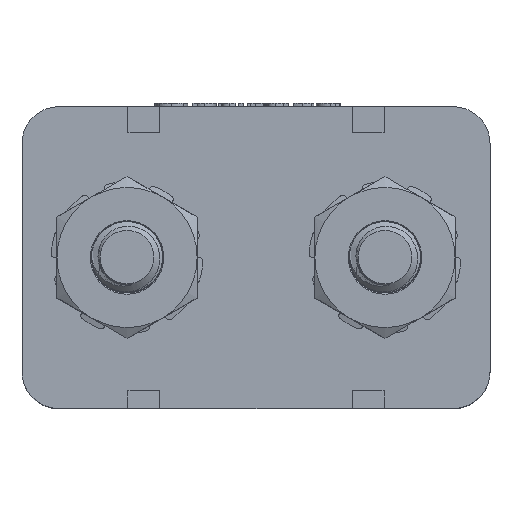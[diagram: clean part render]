
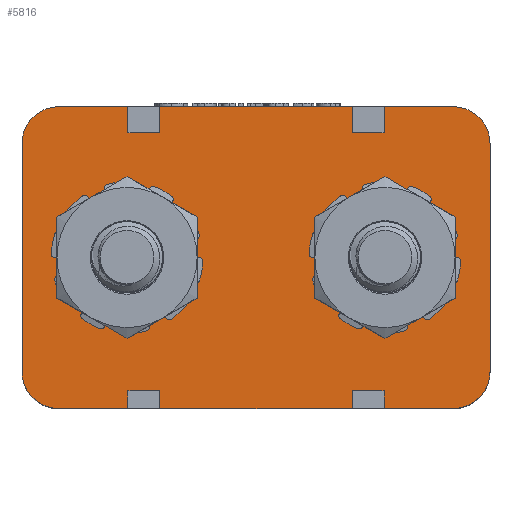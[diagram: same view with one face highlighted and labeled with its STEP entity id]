
A CAD part, top view. The second image highlights one B-rep face of the part: STEP entity #5816.
In plain terms, the highlighted planar face has unit normal (0, 0, 1).
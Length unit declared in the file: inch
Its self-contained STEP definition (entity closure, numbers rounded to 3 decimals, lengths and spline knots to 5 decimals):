
#631=PLANE('',#6151);
#825=FACE_OUTER_BOUND('',#1153,.T.);
#1153=EDGE_LOOP('',(#4529,#4530,#4531,#4532,#4533,#4534,#4535,#4536,#4537,
#4538,#4539,#4540,#4541,#4542,#4543,#4544,#4545,#4546,#4547,#4548,#4549,
#4550,#4551,#4552));
#1563=LINE('',#9264,#1963);
#1565=LINE('',#9270,#1965);
#1568=LINE('',#9275,#1968);
#1573=LINE('',#9285,#1973);
#1575=LINE('',#9291,#1975);
#1578=LINE('',#9296,#1978);
#1580=LINE('',#9301,#1980);
#1584=LINE('',#9309,#1984);
#1587=LINE('',#9315,#1987);
#1592=LINE('',#9324,#1992);
#1594=LINE('',#9327,#1994);
#1595=LINE('',#9330,#1995);
#1598=LINE('',#9336,#1998);
#1601=LINE('',#9344,#2001);
#1602=LINE('',#9348,#2002);
#1603=LINE('',#9350,#2003);
#1604=LINE('',#9352,#2004);
#1605=LINE('',#9353,#2005);
#1606=LINE('',#9355,#2006);
#1607=LINE('',#9359,#2007);
#1963=VECTOR('',#6876,0.3937);
#1965=VECTOR('',#6880,0.3937);
#1968=VECTOR('',#6885,0.3937);
#1973=VECTOR('',#6892,0.3937);
#1975=VECTOR('',#6896,0.3937);
#1978=VECTOR('',#6901,0.3937);
#1980=VECTOR('',#6905,0.3937);
#1984=VECTOR('',#6911,0.3937);
#1987=VECTOR('',#6916,0.3937);
#1992=VECTOR('',#6923,0.3937);
#1994=VECTOR('',#6927,0.3937);
#1995=VECTOR('',#6930,0.3937);
#1998=VECTOR('',#6935,0.3937);
#2001=VECTOR('',#6942,0.3937);
#2002=VECTOR('',#6945,0.3937);
#2003=VECTOR('',#6946,0.3937);
#2004=VECTOR('',#6947,0.3937);
#2005=VECTOR('',#6948,0.3937);
#2006=VECTOR('',#6949,0.3937);
#2007=VECTOR('',#6952,0.3937);
#2124=CIRCLE('',#6152,0.09843);
#2125=CIRCLE('',#6153,0.09843);
#2126=CIRCLE('',#6154,0.09843);
#2127=CIRCLE('',#6155,0.09843);
#2484=VERTEX_POINT('',#9258);
#2486=VERTEX_POINT('',#9262);
#2487=VERTEX_POINT('',#9266);
#2489=VERTEX_POINT('',#9269);
#2492=VERTEX_POINT('',#9279);
#2494=VERTEX_POINT('',#9283);
#2495=VERTEX_POINT('',#9287);
#2497=VERTEX_POINT('',#9290);
#2499=VERTEX_POINT('',#9299);
#2500=VERTEX_POINT('',#9300);
#2503=VERTEX_POINT('',#9308);
#2505=VERTEX_POINT('',#9314);
#2508=VERTEX_POINT('',#9322);
#2509=VERTEX_POINT('',#9329);
#2511=VERTEX_POINT('',#9335);
#2513=VERTEX_POINT('',#9341);
#2514=VERTEX_POINT('',#9343);
#2515=VERTEX_POINT('',#9345);
#2516=VERTEX_POINT('',#9347);
#2517=VERTEX_POINT('',#9349);
#2518=VERTEX_POINT('',#9351);
#2519=VERTEX_POINT('',#9354);
#2520=VERTEX_POINT('',#9356);
#2521=VERTEX_POINT('',#9358);
#3200=EDGE_CURVE('',#2484,#2486,#1563,.T.);
#3202=EDGE_CURVE('',#2489,#2487,#1565,.T.);
#3205=EDGE_CURVE('',#2486,#2489,#1568,.T.);
#3210=EDGE_CURVE('',#2492,#2494,#1573,.T.);
#3212=EDGE_CURVE('',#2497,#2495,#1575,.T.);
#3215=EDGE_CURVE('',#2494,#2497,#1578,.T.);
#3217=EDGE_CURVE('',#2499,#2500,#1580,.T.);
#3221=EDGE_CURVE('',#2503,#2499,#1584,.T.);
#3224=EDGE_CURVE('',#2500,#2505,#1587,.T.);
#3229=EDGE_CURVE('',#2495,#2508,#1592,.T.);
#3231=EDGE_CURVE('',#2487,#2492,#1594,.T.);
#3232=EDGE_CURVE('',#2509,#2484,#1595,.T.);
#3235=EDGE_CURVE('',#2511,#2503,#1598,.T.);
#3238=EDGE_CURVE('',#2513,#2508,#2124,.T.);
#3239=EDGE_CURVE('',#2513,#2514,#1601,.T.);
#3240=EDGE_CURVE('',#2515,#2514,#2125,.T.);
#3241=EDGE_CURVE('',#2515,#2516,#1602,.T.);
#3242=EDGE_CURVE('',#2516,#2517,#1603,.T.);
#3243=EDGE_CURVE('',#2517,#2518,#1604,.T.);
#3244=EDGE_CURVE('',#2518,#2511,#1605,.T.);
#3245=EDGE_CURVE('',#2505,#2519,#1606,.T.);
#3246=EDGE_CURVE('',#2520,#2519,#2126,.T.);
#3247=EDGE_CURVE('',#2520,#2521,#1607,.T.);
#3248=EDGE_CURVE('',#2509,#2521,#2127,.T.);
#4529=ORIENTED_EDGE('',*,*,#3200,.T.);
#4530=ORIENTED_EDGE('',*,*,#3205,.T.);
#4531=ORIENTED_EDGE('',*,*,#3202,.T.);
#4532=ORIENTED_EDGE('',*,*,#3231,.T.);
#4533=ORIENTED_EDGE('',*,*,#3210,.T.);
#4534=ORIENTED_EDGE('',*,*,#3215,.T.);
#4535=ORIENTED_EDGE('',*,*,#3212,.T.);
#4536=ORIENTED_EDGE('',*,*,#3229,.T.);
#4537=ORIENTED_EDGE('',*,*,#3238,.F.);
#4538=ORIENTED_EDGE('',*,*,#3239,.T.);
#4539=ORIENTED_EDGE('',*,*,#3240,.F.);
#4540=ORIENTED_EDGE('',*,*,#3241,.T.);
#4541=ORIENTED_EDGE('',*,*,#3242,.T.);
#4542=ORIENTED_EDGE('',*,*,#3243,.T.);
#4543=ORIENTED_EDGE('',*,*,#3244,.T.);
#4544=ORIENTED_EDGE('',*,*,#3235,.T.);
#4545=ORIENTED_EDGE('',*,*,#3221,.T.);
#4546=ORIENTED_EDGE('',*,*,#3217,.T.);
#4547=ORIENTED_EDGE('',*,*,#3224,.T.);
#4548=ORIENTED_EDGE('',*,*,#3245,.T.);
#4549=ORIENTED_EDGE('',*,*,#3246,.F.);
#4550=ORIENTED_EDGE('',*,*,#3247,.T.);
#4551=ORIENTED_EDGE('',*,*,#3248,.F.);
#4552=ORIENTED_EDGE('',*,*,#3232,.T.);
#5816=ADVANCED_FACE('',(#825),#631,.T.);
#6151=AXIS2_PLACEMENT_3D('',#9340,#6938,#6939);
#6152=AXIS2_PLACEMENT_3D('',#9342,#6940,#6941);
#6153=AXIS2_PLACEMENT_3D('',#9346,#6943,#6944);
#6154=AXIS2_PLACEMENT_3D('',#9357,#6950,#6951);
#6155=AXIS2_PLACEMENT_3D('',#9360,#6953,#6954);
#6876=DIRECTION('',(0.,1.,0.));
#6880=DIRECTION('',(0.,-1.,0.));
#6885=DIRECTION('',(1.,0.,0.));
#6892=DIRECTION('',(0.,1.,0.));
#6896=DIRECTION('',(0.,-1.,0.));
#6901=DIRECTION('',(1.,0.,0.));
#6905=DIRECTION('',(-1.,0.,0.));
#6911=DIRECTION('',(0.,-1.,0.));
#6916=DIRECTION('',(0.,1.,0.));
#6923=DIRECTION('',(1.,0.,0.));
#6927=DIRECTION('',(1.,0.,0.));
#6930=DIRECTION('',(1.,0.,0.));
#6935=DIRECTION('',(-1.,0.,0.));
#6938=DIRECTION('center_axis',(0.,0.,1.));
#6939=DIRECTION('ref_axis',(1.,0.,0.));
#6940=DIRECTION('center_axis',(0.,0.,-1.));
#6941=DIRECTION('ref_axis',(0.707,-0.707,0.));
#6942=DIRECTION('',(0.,1.,0.));
#6943=DIRECTION('center_axis',(0.,0.,-1.));
#6944=DIRECTION('ref_axis',(0.707,0.707,0.));
#6945=DIRECTION('',(-1.,0.,0.));
#6946=DIRECTION('',(0.,-1.,0.));
#6947=DIRECTION('',(-1.,0.,0.));
#6948=DIRECTION('',(0.,1.,0.));
#6949=DIRECTION('',(-1.,0.,0.));
#6950=DIRECTION('center_axis',(0.,0.,-1.));
#6951=DIRECTION('ref_axis',(-0.707,0.707,0.));
#6952=DIRECTION('',(0.,-1.,0.));
#6953=DIRECTION('center_axis',(0.,0.,-1.));
#6954=DIRECTION('ref_axis',(-0.707,-0.707,0.));
#9258=CARTESIAN_POINT('',(0.28348,0.,0.61));
#9262=CARTESIAN_POINT('',(0.28348,0.04748,0.61));
#9264=CARTESIAN_POINT('',(0.28348,0.19061,0.61));
#9266=CARTESIAN_POINT('',(0.36848,0.,0.61));
#9269=CARTESIAN_POINT('',(0.36848,0.04748,0.61));
#9270=CARTESIAN_POINT('',(0.36848,0.22561,0.61));
#9275=CARTESIAN_POINT('',(0.45473,0.04748,0.61));
#9279=CARTESIAN_POINT('',(0.88348,0.,0.61));
#9283=CARTESIAN_POINT('',(0.88348,0.04748,0.61));
#9285=CARTESIAN_POINT('',(0.88348,0.19061,0.61));
#9287=CARTESIAN_POINT('',(0.96848,0.,0.61));
#9290=CARTESIAN_POINT('',(0.96848,0.04748,0.61));
#9291=CARTESIAN_POINT('',(0.96848,0.22561,0.61));
#9296=CARTESIAN_POINT('',(0.75473,0.04748,0.61));
#9299=CARTESIAN_POINT('',(0.36848,0.73748,0.61));
#9300=CARTESIAN_POINT('',(0.28348,0.73748,0.61));
#9301=CARTESIAN_POINT('',(0.49723,0.73748,0.61));
#9308=CARTESIAN_POINT('',(0.36848,0.80748,0.61));
#9309=CARTESIAN_POINT('',(0.36848,0.60561,0.61));
#9314=CARTESIAN_POINT('',(0.28348,0.80748,0.61));
#9315=CARTESIAN_POINT('',(0.28348,0.57061,0.61));
#9322=CARTESIAN_POINT('',(1.15354,0.,0.61));
#9324=CARTESIAN_POINT('',(1.25197,0.,0.61));
#9327=CARTESIAN_POINT('',(1.25197,0.,0.61));
#9329=CARTESIAN_POINT('',(0.09843,0.,0.61));
#9330=CARTESIAN_POINT('',(1.25197,0.,0.61));
#9335=CARTESIAN_POINT('',(0.88348,0.80748,0.61));
#9336=CARTESIAN_POINT('',(0.,0.80748,0.61));
#9340=CARTESIAN_POINT('Origin',(0.62598,0.40374,0.61));
#9341=CARTESIAN_POINT('',(1.25197,0.09843,0.61));
#9342=CARTESIAN_POINT('Origin',(1.15354,0.09843,0.61));
#9343=CARTESIAN_POINT('',(1.25197,0.70906,0.61));
#9344=CARTESIAN_POINT('',(1.25197,0.80748,0.61));
#9345=CARTESIAN_POINT('',(1.15354,0.80748,0.61));
#9346=CARTESIAN_POINT('Origin',(1.15354,0.70906,0.61));
#9347=CARTESIAN_POINT('',(0.96848,0.80748,0.61));
#9348=CARTESIAN_POINT('',(0.,0.80748,0.61));
#9349=CARTESIAN_POINT('',(0.96848,0.73748,0.61));
#9350=CARTESIAN_POINT('',(0.96848,0.60561,0.61));
#9351=CARTESIAN_POINT('',(0.88348,0.73748,0.61));
#9352=CARTESIAN_POINT('',(0.79723,0.73748,0.61));
#9353=CARTESIAN_POINT('',(0.88348,0.57061,0.61));
#9354=CARTESIAN_POINT('',(0.09843,0.80748,0.61));
#9355=CARTESIAN_POINT('',(0.,0.80748,0.61));
#9356=CARTESIAN_POINT('',(0.,0.70906,0.61));
#9357=CARTESIAN_POINT('Origin',(0.09843,0.70906,0.61));
#9358=CARTESIAN_POINT('',(0.,0.09843,0.61));
#9359=CARTESIAN_POINT('',(0.,0.,0.61));
#9360=CARTESIAN_POINT('Origin',(0.09843,0.09843,0.61));
